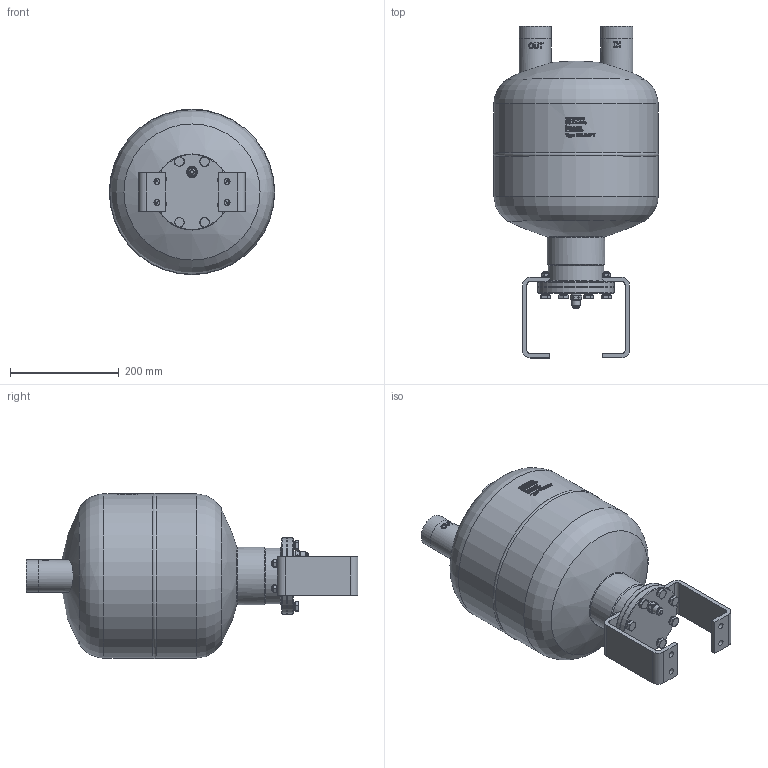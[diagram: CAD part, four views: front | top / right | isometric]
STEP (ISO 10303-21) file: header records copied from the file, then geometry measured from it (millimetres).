
FILE_DESCRIPTION(/* description */ (''),/* implementation_level */ '2;1');
FILE_NAME(/* name */ 'P:\OS\OS-54FY\OS-54FY.stp',/* time_stamp */ '2017-10-04T08:11:03+02:00',/* author */ ('neufeld'),/* organization */ (''),/* preprocessor_version */ 'ST-DEVELOPER v16.1',/* originating_system */ 'Autodesk Inventor 2016',/* authorisation */ '');
FILE_SCHEMA (('AUTOMOTIVE_DESIGN { 1 0 10303 214 3 1 1 }'));
Length unit declared in the file: millimetre
Products named in the file (3): OS-54FY_1; OS-54FY; OS-54FY_2
Assembly tree (2 placements, depth 2):
  OS-54FY_2
    OS-54FY_1
    OS-54FY
Bounding box: 304.09 x 610.35 x 304.09 mm (x, y, z)
Volume: 21373688.9 mm3; surface area: 554311.6 mm2
Topology: 1 solids, 1 shells, 1337 faces, 3541 edges, 2320 vertices
Faces by surface type: plane 694, bspline 337, cylinder 185, cone 113, torus 6, sphere 2
Full cylindrical faces by diameter (mm): 7.2 x1, 8 x8, 8.376 x4, 8.5 x4, 9.188 x8, 10 x12, 10.5 x8, 11 x4, 13.5 x1, 15.4 x8, 15.7 x1, 19 x1, 54.3 x2, 59 x2, 59.5 x2, 102 x1, 106 x1, 107.2 x1, 107.9 x1, 135 x1, 140 x2, 302 x2
Entity records: 47999 total; most frequent: CARTESIAN_POINT 17435, ORIENTED_EDGE 6752, DIRECTION 5520, EDGE_CURVE 3376, VERTEX_POINT 2274, AXIS2_PLACEMENT_3D 2022, EDGE_LOOP 1620, LINE 1476
